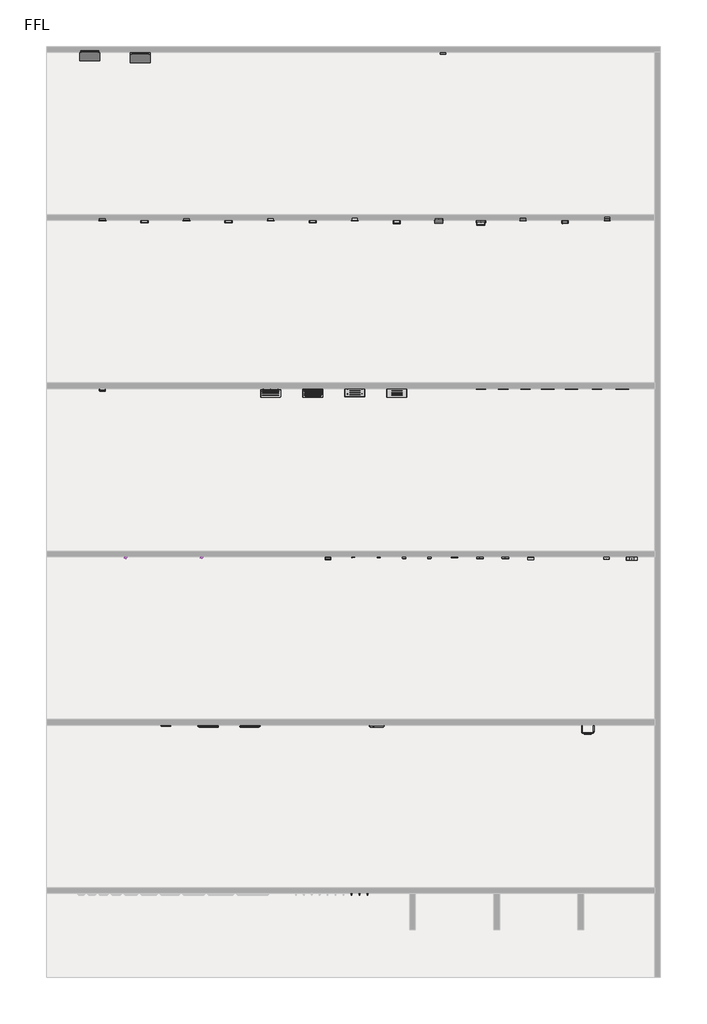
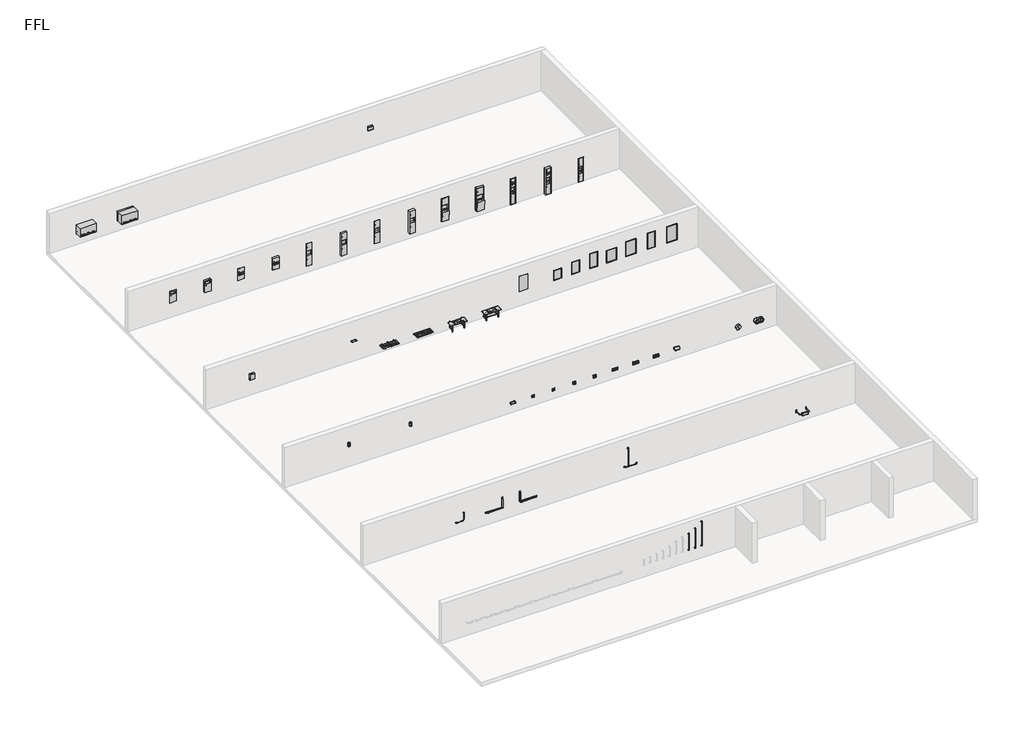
# One storey, part 2 of 2: 51 proxies.
"""IFC4 building model written with IfcOpenShell, lengths in millimetres."""

from ifc_helpers import new_model, si_unit, origin, place, context, project, spatial, transform, mapped, element, save
from components import specialty_equipment_1827895f, specialty_equipment_21699a56, specialty_equipment_f52764ad, specialty_equipment_bf805c09, specialty_equipment_d3429dd2, specialty_equipment_ddab9f5c, specialty_equipment_3da9acec, specialty_equipment_7ed3570a, specialty_equipment_6ff9c7a3, specialty_equipment_2e20168a, specialty_equipment_59e30456, specialty_equipment_1e4861f3, specialty_equipment_3c9b6b59, specialty_equipment_a7aae13d, specialty_equipment_918cf13b, specialty_equipment_59cae8f1, specialty_equipment_10595252, specialty_equipment_c671b277, specialty_equipment_21e379d4, specialty_equipment_318ee3eb, specialty_equipment_16520835, specialty_equipment_c906592a, specialty_equipment_685f5880, specialty_equipment_0715c5d2, specialty_equipment_5f01a150, specialty_equipment_4fdbc1d0, specialty_equipment_4b575479, specialty_equipment_e2bc4629, specialty_equipment_5771c5a9, specialty_equipment_d1b62675, specialty_equipment_b47102ea, specialty_equipment_d78e6f0b, specialty_equipment_3d88ecde, specialty_equipment_0947d158, specialty_equipment_cb105d27, specialty_equipment_6cb7c434, specialty_equipment_35d2bbda, specialty_equipment_26288f8f, specialty_equipment_62537d06, specialty_equipment_7c83437f, specialty_equipment_42fed3f8, specialty_equipment_caec7ef2, specialty_equipment_d1306df7, specialty_equipment_abbd40d7, specialty_equipment_a5e5e8b2, specialty_equipment_d6a71a56, specialty_equipment_37063abb, specialty_equipment_077ba308, specialty_equipment_52607908, specialty_equipment_17e7ff4d, specialty_equipment_2b32edbf, specialty_equipment_fa347529, specialty_equipment_646fb459, specialty_equipment_0e67bdee, specialty_equipment_90be7445

model = new_model("IFC4")

# Units and contexts
model_context = context("Model", 3, world=origin())
ifc_project = project(units=[si_unit("LENGTHUNIT", "METRE", prefix="MILLI")], contexts=[model_context])

# Site, building, storey
site = spatial("IfcSite", under=ifc_project)
building = spatial("IfcBuilding", under=site)
storey = spatial("IfcBuildingStorey", under=building, Name="FFL", Elevation=0.0)

# Proxies
placement = place(None, origin())
specialty_equipment_shape = specialty_equipment_1827895f(model_context)
specialty_equipment_2_shape = specialty_equipment_21699a56(model_context)
element("IfcBuildingElementProxy", 1, Name="Baby Change Station_Metlam_Horizontal_Recessed : 940w x 495d x 585h (ML_8200REC)", ObjectType="Baby Change Station_Metlam_Horizontal_Recessed : 940w x 495d x 585h (ML_8200REC)", at=placement, inside=storey, context=model_context, shape_type="MappedRepresentation", body=[
    mapped(specialty_equipment_shape, transform((-18209.7352929, 8948.2393304, 0.0), x_axis=(1.0, 0.0, 0.0), y_axis=(0.0, 1.0, 0.0), z_axis=(0.0, 0.0, 1.0))),
    mapped(specialty_equipment_2_shape, transform((-18209.7352929, 8948.2393304, 0.0), x_axis=(1.0, 0.0, 0.0), y_axis=(0.0, 1.0, 0.0), z_axis=(0.0, 0.0, 1.0))),
])
specialty_equipment_3_shape = specialty_equipment_f52764ad(model_context)
specialty_equipment_4_shape = specialty_equipment_bf805c09(model_context)
element("IfcBuildingElementProxy", 2, Name="Baby Change Station_Metlam_Horizontal_Surface Mounted_Stainless Steel : 941w x 499d x 588h (ML_8200SM)", ObjectType="Baby Change Station_Metlam_Horizontal_Surface Mounted_Stainless Steel : 941w x 499d x 588h (ML_8200SM)", at=placement, inside=storey, context=model_context, shape_type="MappedRepresentation", body=[
    mapped(specialty_equipment_3_shape, transform((-15809.7352929, 8948.2393304, 0.0), x_axis=(1.0, 0.0, 0.0), y_axis=(0.0, 1.0, 0.0), z_axis=(0.0, 0.0, 1.0))),
    mapped(specialty_equipment_4_shape, transform((-15809.7352929, 8948.2393304, 0.0), x_axis=(1.0, 0.0, 0.0), y_axis=(0.0, 1.0, 0.0), z_axis=(0.0, 0.0, 1.0))),
])
specialty_equipment_5_shape = specialty_equipment_d3429dd2(model_context)
element("IfcBuildingElementProxy", 3, Name="Hand Dryer_3 In 1_Metlam_Eclipse_Recessed : 318w x 190d x 1500h (ML_ECLIPSE_3N1REC_D)", ObjectType="Hand Dryer_3 In 1_Metlam_Eclipse_Recessed : 318w x 190d x 1500h (ML_ECLIPSE_3N1REC_D)", at=placement, inside=storey, context=model_context, shape_type="MappedRepresentation", body=[
    mapped(specialty_equipment_5_shape, transform((6390.2647071, 1130.2393304, 0.0), x_axis=(1.0, 0.0, 0.0), y_axis=(0.0, 1.0, 0.0), z_axis=(0.0, 0.0, 1.0))),
])
specialty_equipment_6_shape = specialty_equipment_ddab9f5c(model_context)
element("IfcBuildingElementProxy", 4, Name="Hand Dryer_3 In 1_Metlam_Eco_Recessed : 318w x 142d x 1625h (ML_ECO_73N1REC)", ObjectType="Hand Dryer_3 In 1_Metlam_Eco_Recessed : 318w x 142d x 1625h (ML_ECO_73N1REC)", at=placement, inside=storey, context=model_context, shape_type="MappedRepresentation", body=[
    mapped(specialty_equipment_6_shape, transform((2390.2647071, 1083.2393304, 0.0), x_axis=(1.0, 0.0, 0.0), y_axis=(0.0, 1.0, 0.0), z_axis=(0.0, 0.0, 1.0))),
])
specialty_equipment_7_shape = specialty_equipment_3da9acec(model_context)
element("IfcBuildingElementProxy", 5, Name="Hand Dryer_3 In 1_Metlam_Eco_Surface Mounted : 318w x 142d x 1625h (ML_ECO_73N1SM)", ObjectType="Hand Dryer_3 In 1_Metlam_Eco_Surface Mounted : 318w x 142d x 1625h (ML_ECO_73N1SM)", at=placement, inside=storey, context=model_context, shape_type="MappedRepresentation", body=[
    mapped(specialty_equipment_7_shape, transform((4390.2647071, 948.2393304, 0.0), x_axis=(1.0, 0.0, 0.0), y_axis=(0.0, 1.0, 0.0), z_axis=(0.0, 0.0, 1.0))),
])
specialty_equipment_8_shape = specialty_equipment_7ed3570a(model_context)
element("IfcBuildingElementProxy", 6, Name="Paper Dispenser and Waste_Metlam_Recessed_6.5L Waste : 365w x 112d x 720h (ML710_RECMK2)", ObjectType="Paper Dispenser and Waste_Metlam_Recessed_6.5L Waste : 365w x 112d x 720h (ML710_RECMK2)", at=placement, inside=storey, context=model_context, shape_type="MappedRepresentation", body=[
    mapped(specialty_equipment_8_shape, transform((-13609.7352929, 1045.2393304, 0.0), x_axis=(1.0, 0.0, 0.0), y_axis=(0.0, 1.0, 0.0), z_axis=(0.0, 0.0, 1.0))),
])
specialty_equipment_9_shape = specialty_equipment_6ff9c7a3(model_context)
element("IfcBuildingElementProxy", 7, Name="Paper Dispenser and Waste_Metlam_Recessed_19L Waste : 333w x 115d x 1397h (ML706RECMK2)", ObjectType="Paper Dispenser and Waste_Metlam_Recessed_19L Waste : 333w x 115d x 1397h (ML706RECMK2)", at=placement, inside=storey, context=model_context, shape_type="MappedRepresentation", body=[
    mapped(specialty_equipment_9_shape, transform((-9609.7352929, 1048.2393304, 0.0), x_axis=(1.0, 0.0, 0.0), y_axis=(0.0, 1.0, 0.0), z_axis=(0.0, 0.0, 1.0))),
])
specialty_equipment_10_shape = specialty_equipment_2e20168a(model_context)
element("IfcBuildingElementProxy", 8, Name="Paper Dispenser and Waste_Metlam_Recessed_22L Waste : 333w x 155d x 1397h (ML707REC_MK2)", ObjectType="Paper Dispenser and Waste_Metlam_Recessed_22L Waste : 333w x 155d x 1397h (ML707REC_MK2)", at=placement, inside=storey, context=model_context, shape_type="MappedRepresentation", body=[
    mapped(specialty_equipment_10_shape, transform((-5609.7352929, 1088.2393304, 0.0), x_axis=(1.0, 0.0, 0.0), y_axis=(0.0, 1.0, 0.0), z_axis=(0.0, 0.0, 1.0))),
])
specialty_equipment_11_shape = specialty_equipment_59e30456(model_context)
element("IfcBuildingElementProxy", 9, Name="Paper Dispenser and Waste_Metlam_Recessed_49L Waste : 438w x 237d x 1420h (ML705_RECMK2)", ObjectType="Paper Dispenser and Waste_Metlam_Recessed_49L Waste : 438w x 237d x 1420h (ML705_RECMK2)", at=placement, inside=storey, context=model_context, shape_type="MappedRepresentation", body=[
    mapped(specialty_equipment_11_shape, transform((-1609.7352929, 1055.2393304, 0.0), x_axis=(1.0, 0.0, 0.0), y_axis=(0.0, 1.0, 0.0), z_axis=(0.0, 0.0, 1.0))),
])
specialty_equipment_12_shape = specialty_equipment_1e4861f3(model_context)
element("IfcBuildingElementProxy", 10, Name="Paper Dispenser and Waste_Metlam_Surface Mounted_6.5L Waste : 365w x 115d x 720h (ML710_SMMK2)", ObjectType="Paper Dispenser and Waste_Metlam_Surface Mounted_6.5L Waste : 365w x 115d x 720h (ML710_SMMK2)", at=placement, inside=storey, context=model_context, shape_type="MappedRepresentation", body=[
    mapped(specialty_equipment_12_shape, transform((-11609.7352929, 948.2393304, 0.0), x_axis=(1.0, 0.0, 0.0), y_axis=(0.0, 1.0, 0.0), z_axis=(0.0, 0.0, 1.0))),
])
specialty_equipment_13_shape = specialty_equipment_3c9b6b59(model_context)
element("IfcBuildingElementProxy", 11, Name="Paper Dispenser and Waste_Metlam_Surface Mounted_19L Waste : 333w x 115d x 1397h (ML706SM_MK2)", ObjectType="Paper Dispenser and Waste_Metlam_Surface Mounted_19L Waste : 333w x 115d x 1397h (ML706SM_MK2)", at=placement, inside=storey, context=model_context, shape_type="MappedRepresentation", body=[
    mapped(specialty_equipment_13_shape, transform((-7609.7352929, 948.2393304, 0.0), x_axis=(1.0, 0.0, 0.0), y_axis=(0.0, 1.0, 0.0), z_axis=(0.0, 0.0, 1.0))),
])
specialty_equipment_14_shape = specialty_equipment_a7aae13d(model_context)
element("IfcBuildingElementProxy", 12, Name="Paper Dispenser and Waste_Metlam_Surface Mounted_22L Waste : 333w x 160d x 1397h (ML707SM_MK2)", ObjectType="Paper Dispenser and Waste_Metlam_Surface Mounted_22L Waste : 333w x 160d x 1397h (ML707SM_MK2)", at=placement, inside=storey, context=model_context, shape_type="MappedRepresentation", body=[
    mapped(specialty_equipment_14_shape, transform((-3609.7352929, 948.2393304, 0.0), x_axis=(1.0, 0.0, 0.0), y_axis=(0.0, 1.0, 0.0), z_axis=(0.0, 0.0, 1.0))),
])
specialty_equipment_15_shape = specialty_equipment_918cf13b(model_context)
element("IfcBuildingElementProxy", 13, Name="Paper Dispenser and Waste_Metlam_Surface Mounted_49L Waste : 438w x 237d x 1420h (ML705SM_MK2)", ObjectType="Paper Dispenser and Waste_Metlam_Surface Mounted_49L Waste : 438w x 237d x 1420h (ML705SM_MK2)", at=placement, inside=storey, context=model_context, shape_type="MappedRepresentation", body=[
    mapped(specialty_equipment_15_shape, transform((390.2647071, 948.2393304, 0.0), x_axis=(1.0, 0.0, 0.0), y_axis=(0.0, 1.0, 0.0), z_axis=(0.0, 0.0, 1.0))),
])
specialty_equipment_16_shape = specialty_equipment_59cae8f1(model_context)
element("IfcBuildingElementProxy", 14, Name="Backrest_Metlam_Straight Rail : 597w x 442d x 156h (MLR119MKII)", ObjectType="Backrest_Metlam_Straight Rail : 597w x 442d x 156h (MLR119MKII)", at=placement, inside=storey, context=model_context, shape_type="MappedRepresentation", body=[
    mapped(specialty_equipment_16_shape, transform((5532.2283614, -23051.7606696, 0.0), x_axis=(1.0, 0.0, 0.0), y_axis=(0.0, 1.0, 0.0), z_axis=(0.0, 0.0, 1.0))),
])
specialty_equipment_17_shape = specialty_equipment_10595252(model_context)
element("IfcBuildingElementProxy", 15, Name="Grab Rail_Metlam_90 Deg_Ambulant : 482w x 60d x 482h (MLR112)", ObjectType="Grab Rail_Metlam_90 Deg_Ambulant : 482w x 60d x 482h (MLR112)", at=placement, inside=storey, context=model_context, shape_type="MappedRepresentation", body=[
    mapped(specialty_equipment_17_shape, transform((-14858.8176069, -23051.7606696, 0.0), x_axis=(0.9999999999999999, 0.0, 0.0), y_axis=(0.0, 0.9999999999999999, 0.0), z_axis=(0.0, 0.0, 1.0))),
])
specialty_equipment_18_shape = specialty_equipment_c671b277(model_context)
element("IfcBuildingElementProxy", 16, Name="Grab Rail_Metlam_90 Deg_Anti Ligature_Left : 982w x 90d x 632d (MLR103_AL)", ObjectType="Grab Rail_Metlam_90 Deg_Anti Ligature_Left : 982w x 90d x 632d (MLR103_AL)", at=placement, inside=storey, context=model_context, shape_type="MappedRepresentation", body=[
    mapped(specialty_equipment_18_shape, transform((-12721.9852929, -23051.7606696, 0.0), x_axis=(1.0, 0.0, 0.0), y_axis=(0.0, 1.0, 0.0), z_axis=(0.0, 0.0, 1.0))),
])
specialty_equipment_19_shape = specialty_equipment_21e379d4(model_context)
element("IfcBuildingElementProxy", 17, Name="Grab Rail_Metlam_90 Deg_Anti Ligature_Right : 982w x 90d x 632d (MLR104_AL)", ObjectType="Grab Rail_Metlam_90 Deg_Anti Ligature_Right : 982w x 90d x 632d (MLR104_AL)", at=placement, inside=storey, context=model_context, shape_type="MappedRepresentation", body=[
    mapped(specialty_equipment_19_shape, transform((-9698.4852929, -23051.7606696, 0.0), x_axis=(1.0, 0.0, 0.0), y_axis=(0.0, 1.0, 0.0), z_axis=(0.0, 0.0, 1.0))),
])
specialty_equipment_20_shape = specialty_equipment_318ee3eb(model_context)
element("IfcBuildingElementProxy", 18, Name="Grab Rail_Metlam_Shower_Offset_Left : 732w x 90d x 1132h (MLR107MKII)", ObjectType="Grab Rail_Metlam_Shower_Offset_Left : 732w x 90d x 1132h (MLR107MKII)", at=placement, inside=storey, context=model_context, shape_type="MappedRepresentation", body=[
    mapped(specialty_equipment_20_shape, transform((-4170.7352929, -23051.7606696, 0.0), x_axis=(1.0, 0.0, 0.0), y_axis=(0.0, 1.0, 0.0), z_axis=(0.0, 0.0, 1.0))),
])
specialty_equipment_21_shape = specialty_equipment_16520835(model_context)
element("IfcBuildingElementProxy", 19, Name="Grab Rail_Metlam_Straight_Vertical : 1532long x 90d x 32w (ML336SS)", ObjectType="Grab Rail_Metlam_Straight_Vertical : 1532long x 90d x 32w (ML336SS)", at=placement, inside=storey, context=model_context, shape_type="MappedRepresentation", body=[
    mapped(specialty_equipment_21_shape, transform((-5007.1278918, -31051.7606696, 0.0), x_axis=(1.0, 0.0, 0.0), y_axis=(0.0, 1.0, 0.0), z_axis=(0.0, 0.0, 1.0))),
])
specialty_equipment_22_shape = specialty_equipment_c906592a(model_context)
element("IfcBuildingElementProxy", 20, Name="Grab Rail_Metlam_Straight_Vertical : 1232long x 90d x 32w (ML335SS)", ObjectType="Grab Rail_Metlam_Straight_Vertical : 1232long x 90d x 32w (ML335SS)", at=placement, inside=storey, context=model_context, shape_type="MappedRepresentation", body=[
    mapped(specialty_equipment_22_shape, transform((-5385.1278918, -31051.7606696, 0.0), x_axis=(1.0, 0.0, 0.0), y_axis=(0.0, 1.0, 0.0), z_axis=(0.0, 0.0, 1.0))),
])
specialty_equipment_23_shape = specialty_equipment_685f5880(model_context)
element("IfcBuildingElementProxy", 21, Name="Grab Rail_Metlam_Straight_Vertical : 1032long x 90d x 32w (ML334_1SS)", ObjectType="Grab Rail_Metlam_Straight_Vertical : 1032long x 90d x 32w (ML334_1SS)", at=placement, inside=storey, context=model_context, shape_type="MappedRepresentation", body=[
    mapped(specialty_equipment_23_shape, transform((-5763.1278918, -31051.7606696, 0.0), x_axis=(1.0, 0.0, 0.0), y_axis=(0.0, 1.0, 0.0), z_axis=(0.0, 0.0, 1.0))),
])
specialty_equipment_24_shape = specialty_equipment_0715c5d2(model_context)
element("IfcBuildingElementProxy", 22, Name="Hand Dryer_Metlam_Slimline : 268w x 100d x 283h (ML_100N_SS)", ObjectType="Hand Dryer_Metlam_Slimline : 268w x 100d x 283h (ML_100N_SS)", at=placement, inside=storey, context=model_context, shape_type="MappedRepresentation", body=[
    mapped(specialty_equipment_24_shape, transform((-1409.7352929, 8948.2393304, 0.0), x_axis=(1.0, 0.0, 0.0), y_axis=(0.0, 1.0, 0.0), z_axis=(0.0, 0.0, 1.0))),
])
specialty_equipment_25_shape = specialty_equipment_5f01a150(model_context)
element("IfcBuildingElementProxy", 23, Name="Mirror_Metlam_Polished : 500w x 8d x 950h (ML777)", ObjectType="Mirror_Metlam_Polished : 500w x 8d x 950h (ML777)", at=placement, inside=storey, context=model_context, shape_type="MappedRepresentation", body=[
    mapped(specialty_equipment_25_shape, transform((-1609.7352929, -7051.7606696, 0.0), x_axis=(1.0, 0.0, 0.0), y_axis=(0.0, 1.0, 0.0), z_axis=(0.0, 0.0, 1.0))),
])
specialty_equipment_26_shape = specialty_equipment_4fdbc1d0(model_context)
element("IfcBuildingElementProxy", 24, Name="Paper Dispenser_Metlam_Vertical_Rounded : 280w x 125d x 348h (ML725L_AR)", ObjectType="Paper Dispenser_Metlam_Vertical_Rounded : 280w x 125d x 348h (ML725L_AR)", at=placement, inside=storey, context=model_context, shape_type="MappedRepresentation", body=[
    mapped(specialty_equipment_26_shape, transform((-17609.7352929, -7051.7606696, 0.0), x_axis=(1.0, 0.0, 0.0), y_axis=(0.0, 1.0, 0.0), z_axis=(0.0, 0.0, 1.0))),
])
specialty_equipment_27_shape = specialty_equipment_4b575479(model_context)
element("IfcBuildingElementProxy", 25, Name="Shower Seat_Metlam_Folding : 960w x 400d x 205h (ML991_CL)", ObjectType="Shower Seat_Metlam_Folding : 960w x 400d x 205h (ML991_CL)", at=placement, inside=storey, context=model_context, shape_type="MappedRepresentation", body=[
    mapped(specialty_equipment_27_shape, transform((-9414.9070403, -6830.8611653, 0.0), x_axis=(1.0, 0.0, 0.0), y_axis=(0.0, 1.0, 0.0), z_axis=(0.0, 0.0, 1.0))),
])
specialty_equipment_28_shape = specialty_equipment_e2bc4629(model_context)
element("IfcBuildingElementProxy", 26, Name="Shower Seat_Metlam_Folding_Guide Bracket : 960w x 400d x 295h (ML994)", ObjectType="Shower Seat_Metlam_Folding_Guide Bracket : 960w x 400d x 295h (ML994)", at=placement, inside=storey, context=model_context, shape_type="MappedRepresentation", body=[
    mapped(specialty_equipment_28_shape, transform((-7414.9070403, -6830.8611653, 0.0), x_axis=(1.0, 0.0, 0.0), y_axis=(0.0, 1.0, 0.0), z_axis=(0.0, 0.0, 1.0))),
])
specialty_equipment_29_shape = specialty_equipment_5771c5a9(model_context)
specialty_equipment_30_shape = specialty_equipment_d1b62675(model_context)
element("IfcBuildingElementProxy", 27, Name="Shower Seat_Metlam_Folding_Support Legs and Handle : 960w x 400d x 480h (ML995_PH)", ObjectType="Shower Seat_Metlam_Folding_Support Legs and Handle : 960w x 400d x 480h (ML995_PH)", at=placement, inside=storey, context=model_context, shape_type="MappedRepresentation", body=[
    mapped(specialty_equipment_29_shape, transform((-3414.9070403, -6830.8611653, 0.0), x_axis=(1.0, 0.0, 0.0), y_axis=(0.0, 1.0, 0.0), z_axis=(0.0, 0.0, 1.0))),
    mapped(specialty_equipment_30_shape, transform((-3414.9070403, -6830.8611653, 0.0), x_axis=(1.0, 0.0, 0.0), y_axis=(0.0, 1.0, 0.0), z_axis=(0.0, 0.0, 1.0))),
])
specialty_equipment_31_shape = specialty_equipment_b47102ea(model_context)
specialty_equipment_32_shape = specialty_equipment_d78e6f0b(model_context)
element("IfcBuildingElementProxy", 28, Name="Shower Seat_Metlam_Folding_Support Legs : 960w x 395d x 498h (ML995_CL)", ObjectType="Shower Seat_Metlam_Folding_Support Legs : 960w x 395d x 498h (ML995_CL)", at=placement, inside=storey, context=model_context, shape_type="MappedRepresentation", body=[
    mapped(specialty_equipment_31_shape, transform((-5414.9070403, -6830.8611653, 0.0), x_axis=(1.0, 0.0, 0.0), y_axis=(0.0, 1.0, 0.0), z_axis=(0.0, 0.0, 1.0))),
    mapped(specialty_equipment_32_shape, transform((-5414.9070403, -6830.8611653, 0.0), x_axis=(1.0, 0.0, 0.0), y_axis=(0.0, 1.0, 0.0), z_axis=(0.0, 0.0, 1.0))),
])
specialty_equipment_33_shape = specialty_equipment_3d88ecde(model_context)
element("IfcBuildingElementProxy", 29, Name="Shelf_Metlam_Utility : 300w x 127d x 105h (ML950_12)", ObjectType="Shelf_Metlam_Utility : 300w x 127d x 105h (ML950_12)", at=placement, inside=storey, context=model_context, shape_type="MappedRepresentation", body=[
    mapped(specialty_equipment_33_shape, transform((-11609.7352929, -7051.7606696, 0.0), x_axis=(1.0, 0.0, 0.0), y_axis=(0.0, 1.0, 0.0), z_axis=(0.0, 0.0, 1.0))),
])
specialty_equipment_34_shape = specialty_equipment_0947d158(model_context)
element("IfcBuildingElementProxy", 30, Name="Toilet Roll Dispenser_Metlam_Double_Bar_Hooded : 265w x 91d x 100h (ML267)", ObjectType="Toilet Roll Dispenser_Metlam_Double_Bar_Hooded : 265w x 91d x 100h (ML267)", at=placement, inside=storey, context=model_context, shape_type="MappedRepresentation", body=[
    mapped(specialty_equipment_34_shape, transform((-6874.7352929, -15051.7606696, 0.0), x_axis=(1.0, 0.0, 0.0), y_axis=(0.0, 1.0, 0.0), z_axis=(0.0, 0.0, 1.0))),
])
specialty_equipment_35_shape = specialty_equipment_cb105d27(model_context)
element("IfcBuildingElementProxy", 31, Name="Toilet Roll Dispenser_Metlam_Double_Cabinet_Arc : 280w x 135d x 135h (ML835_TRH)", ObjectType="Toilet Roll Dispenser_Metlam_Double_Cabinet_Arc : 280w x 135d x 135h (ML835_TRH)", at=placement, inside=storey, context=model_context, shape_type="MappedRepresentation", body=[
    mapped(specialty_equipment_35_shape, transform((2753.2647071, -15051.7606696, 0.0), x_axis=(1.0, 0.0, 0.0), y_axis=(0.0, 1.0, 0.0), z_axis=(0.0, 0.0, 1.0))),
])
specialty_equipment_36_shape = specialty_equipment_6cb7c434(model_context)
element("IfcBuildingElementProxy", 32, Name="Toilet Roll Dispenser_Metlam_Double_Cabinet_Rounded : 520w x 150d x 280h (ML841DBL)", ObjectType="Toilet Roll Dispenser_Metlam_Double_Cabinet_Rounded : 520w x 150d x 280h (ML841DBL)", at=placement, inside=storey, context=model_context, shape_type="MappedRepresentation", body=[
    mapped(specialty_equipment_36_shape, transform((7567.2647071, -15051.7606696, 0.0), x_axis=(1.0, 0.0, 0.0), y_axis=(0.0, 1.0, 0.0), z_axis=(0.0, 0.0, 1.0))),
])
specialty_equipment_37_shape = specialty_equipment_35d2bbda(model_context)
element("IfcBuildingElementProxy", 33, Name="Toilet Roll Dispenser_Metlam_Double_Recessed_Hooded : 322w x 84d x 161h (ML263B)", ObjectType="Toilet Roll Dispenser_Metlam_Double_Recessed_Hooded : 322w x 84d x 161h (ML263B)", at=placement, inside=storey, context=model_context, shape_type="MappedRepresentation", body=[
    mapped(specialty_equipment_37_shape, transform((-857.2352929, -15004.7606696, 0.0), x_axis=(1.0, 0.0, 0.0), y_axis=(0.0, 1.0, 0.0), z_axis=(0.0, 0.0, 1.0))),
])
specialty_equipment_38_shape = specialty_equipment_26288f8f(model_context)
element("IfcBuildingElementProxy", 34, Name="Toilet Roll Dispenser_Metlam_Double_Surface Mounted : 322w x 83d x 161h (ML262SM_S)", ObjectType="Toilet Roll Dispenser_Metlam_Double_Surface Mounted : 322w x 83d x 161h (ML262SM_S)", at=placement, inside=storey, context=model_context, shape_type="MappedRepresentation", body=[
    mapped(specialty_equipment_38_shape, transform((346.2647071, -15051.7606696, 0.0), x_axis=(1.0, 0.0, 0.0), y_axis=(0.0, 1.0, 0.0), z_axis=(0.0, 0.0, 1.0))),
])
specialty_equipment_39_shape = specialty_equipment_62537d06(model_context)
element("IfcBuildingElementProxy", 35, Name="Toilet Roll Dispenser_Metlam_Double_Surface Mounted_Hooded : 322w x 91d x 161h (ML263SM_S)", ObjectType="Toilet Roll Dispenser_Metlam_Double_Surface Mounted_Hooded : 322w x 91d x 161h (ML263SM_S)", at=placement, inside=storey, context=model_context, shape_type="MappedRepresentation", body=[
    mapped(specialty_equipment_39_shape, transform((1549.7647071, -15051.7606696, 0.0), x_axis=(1.0, 0.0, 0.0), y_axis=(0.0, 1.0, 0.0), z_axis=(0.0, 0.0, 1.0))),
])
specialty_equipment_40_shape = specialty_equipment_7c83437f(model_context)
element("IfcBuildingElementProxy", 36, Name="Toilet Roll Dispenser_Metlam_Single_Cabinet_Rounded : 273w x 120d x 273h (ML841)", ObjectType="Toilet Roll Dispenser_Metlam_Single_Cabinet_Rounded : 273w x 120d x 273h (ML841)", at=placement, inside=storey, context=model_context, shape_type="MappedRepresentation", body=[
    mapped(specialty_equipment_40_shape, transform((6363.7647071, -15051.7606696, 0.0), x_axis=(1.0, 0.0, 0.0), y_axis=(0.0, 1.0, 0.0), z_axis=(0.0, 0.0, 1.0))),
])
specialty_equipment_41_shape = specialty_equipment_42fed3f8(model_context)
element("IfcBuildingElementProxy", 37, Name="Toilet Roll Dispenser_Metlam_Single_Recessed : 161w x 76d x 161h (ML260S)", ObjectType="Toilet Roll Dispenser_Metlam_Single_Recessed : 161w x 76d x 161h (ML260S)", at=placement, inside=storey, context=model_context, shape_type="MappedRepresentation", body=[
    mapped(specialty_equipment_41_shape, transform((-5671.2352929, -15004.7606696, 0.0), x_axis=(1.0, 0.0, 0.0), y_axis=(0.0, 1.0, 0.0), z_axis=(0.0, 0.0, 1.0))),
])
specialty_equipment_42_shape = specialty_equipment_caec7ef2(model_context)
element("IfcBuildingElementProxy", 38, Name="Toilet Roll Dispenser_Metlam_Single_Recessed_Hooded : 161w x 84d x 161h (ML261-S)", ObjectType="Toilet Roll Dispenser_Metlam_Single_Recessed_Hooded : 161w x 84d x 161h (ML261-S)", at=placement, inside=storey, context=model_context, shape_type="MappedRepresentation", body=[
    mapped(specialty_equipment_42_shape, transform((-4467.7352929, -15004.7606696, 0.0), x_axis=(1.0, 0.0, 0.0), y_axis=(0.0, 1.0, 0.0), z_axis=(0.0, 0.0, 1.0))),
])
specialty_equipment_43_shape = specialty_equipment_d1306df7(model_context)
element("IfcBuildingElementProxy", 39, Name="Toilet Roll Dispenser_Metlam_Single_Surface Mounted : 161w x 83d x 161h (ML260SM_S)", ObjectType="Toilet Roll Dispenser_Metlam_Single_Surface Mounted : 161w x 83d x 161h (ML260SM_S)", at=placement, inside=storey, context=model_context, shape_type="MappedRepresentation", body=[
    mapped(specialty_equipment_43_shape, transform((-3264.2352929, -15051.7606696, 0.0), x_axis=(1.0, 0.0, 0.0), y_axis=(0.0, 1.0, 0.0), z_axis=(0.0, 0.0, 1.0))),
])
specialty_equipment_44_shape = specialty_equipment_abbd40d7(model_context)
element("IfcBuildingElementProxy", 40, Name="Toilet Roll Dispenser_Metlam_Single_Surface Mounted_Hooded : 161w x 88d x 161h (ML261SM_S)", ObjectType="Toilet Roll Dispenser_Metlam_Single_Surface Mounted_Hooded : 161w x 88d x 161h (ML261SM_S)", at=placement, inside=storey, context=model_context, shape_type="MappedRepresentation", body=[
    mapped(specialty_equipment_44_shape, transform((-2060.7352929, -15051.7606696, 0.0), x_axis=(1.0, 0.0, 0.0), y_axis=(0.0, 1.0, 0.0), z_axis=(0.0, 0.0, 1.0))),
])
specialty_equipment_45_shape = specialty_equipment_a5e5e8b2(model_context)
element("IfcBuildingElementProxy", 41, Name="Waste_Metlam_Recessed_9L : 365w x 115d x 720h (ML710R_MKII)", ObjectType="Waste_Metlam_Recessed_9L : 365w x 115d x 720h (ML710R_MKII)", at=placement, inside=storey, context=model_context, shape_type="MappedRepresentation", body=[
    mapped(specialty_equipment_45_shape, transform((-17609.7352929, 1048.2393304, 0.0), x_axis=(1.0, 0.0, 0.0), y_axis=(0.0, 1.0, 0.0), z_axis=(0.0, 0.0, 1.0))),
])
specialty_equipment_46_shape = specialty_equipment_d6a71a56(model_context)
element("IfcBuildingElementProxy", 42, Name="Waste_Metlam_Surface Mounted_9L : 365w x 115d x 720h (ML710R_SM_MK2)", ObjectType="Waste_Metlam_Surface Mounted_9L : 365w x 115d x 720h (ML710R_SM_MK2)", at=placement, inside=storey, context=model_context, shape_type="MappedRepresentation", body=[
    mapped(specialty_equipment_46_shape, transform((-15609.7352929, 948.2393304, 0.0), x_axis=(1.0, 0.0, 0.0), y_axis=(0.0, 1.0, 0.0), z_axis=(0.0, 0.0, 1.0))),
])
specialty_equipment_47_shape = specialty_equipment_37063abb(model_context)
element("IfcBuildingElementProxy", 43, Name="Soap Dispenser_Metlam_Rectangular_Vertical_Button Pump : 123w x 93d x 209h (ML605BS)", ObjectType="Soap Dispenser_Metlam_Rectangular_Vertical_Button Pump : 123w x 93d x 209h (ML605BS)", at=placement, inside=storey, context=model_context, shape_type="MappedRepresentation", body=[
    mapped(specialty_equipment_47_shape, transform((-16502.7352929, -15051.7606696, 0.0), x_axis=(1.0, 0.0, 0.0), y_axis=(0.0, 1.0, 0.0), z_axis=(0.0, 0.0, 1.0))),
])
specialty_equipment_48_shape = specialty_equipment_077ba308(model_context)
element("IfcBuildingElementProxy", 44, Name="Soap Dispenser_Metlam_Rectangular_Vertical_Pump : 123w x 123d x 209h (ML605AS_N)", ObjectType="Soap Dispenser_Metlam_Rectangular_Vertical_Pump : 123w x 123d x 209h (ML605AS_N)", at=placement, inside=storey, context=model_context, shape_type="MappedRepresentation", body=[
    mapped(specialty_equipment_48_shape, transform((-12892.2352929, -15051.7606696, 0.0), x_axis=(1.0, 0.0, 0.0), y_axis=(0.0, 1.0, 0.0), z_axis=(0.0, 0.0, 1.0))),
])
specialty_equipment_49_shape = specialty_equipment_52607908(model_context)
element("IfcBuildingElementProxy", 45, Name="Mirror_Metlam_Framed : 460w x 25d x 610h (ML771)", ObjectType="Mirror_Metlam_Framed : 460w x 25d x 610h (ML771)", at=placement, inside=storey, context=model_context, shape_type="MappedRepresentation", body=[
    mapped(specialty_equipment_49_shape, transform((390.2647071, -7051.7606696, 0.0), x_axis=(1.0, 0.0, 0.0), y_axis=(0.0, 1.0, 0.0), z_axis=(0.0, 0.0, 1.0))),
])
specialty_equipment_50_shape = specialty_equipment_17e7ff4d(model_context)
element("IfcBuildingElementProxy", 46, Name="Mirror_Metlam_Framed : 460w x 25d x 760h (ML771_1)", ObjectType="Mirror_Metlam_Framed : 460w x 25d x 760h (ML771_1)", at=placement, inside=storey, context=model_context, shape_type="MappedRepresentation", body=[
    mapped(specialty_equipment_50_shape, transform((1450.2647071, -7051.7606696, 0.0), x_axis=(1.0, 0.0, 0.0), y_axis=(0.0, 1.0, 0.0), z_axis=(0.0, 0.0, 1.0))),
])
specialty_equipment_51_shape = specialty_equipment_2b32edbf(model_context)
element("IfcBuildingElementProxy", 47, Name="Mirror_Metlam_Framed : 460w x 25d x 910h (ML771_2)", ObjectType="Mirror_Metlam_Framed : 460w x 25d x 910h (ML771_2)", at=placement, inside=storey, context=model_context, shape_type="MappedRepresentation", body=[
    mapped(specialty_equipment_51_shape, transform((2510.2647071, -7051.7606696, 0.0), x_axis=(1.0, 0.0, 0.0), y_axis=(0.0, 1.0, 0.0), z_axis=(0.0, 0.0, 1.0))),
])
specialty_equipment_52_shape = specialty_equipment_fa347529(model_context)
element("IfcBuildingElementProxy", 48, Name="Mirror_Metlam_Framed : 610w x 25d x 760h (ML771_3)", ObjectType="Mirror_Metlam_Framed : 610w x 25d x 760h (ML771_3)", at=placement, inside=storey, context=model_context, shape_type="MappedRepresentation", body=[
    mapped(specialty_equipment_52_shape, transform((3565.2647071, -7051.7606696, 0.0), x_axis=(1.0, 0.0, 0.0), y_axis=(0.0, 1.0, 0.0), z_axis=(0.0, 0.0, 1.0))),
])
specialty_equipment_53_shape = specialty_equipment_646fb459(model_context)
element("IfcBuildingElementProxy", 49, Name="Mirror_Metlam_Framed : 610w x 25d x 910h (ML771_4)", ObjectType="Mirror_Metlam_Framed : 610w x 25d x 910h (ML771_4)", at=placement, inside=storey, context=model_context, shape_type="MappedRepresentation", body=[
    mapped(specialty_equipment_53_shape, transform((4695.2647071, -7051.7606696, 0.0), x_axis=(1.0, 0.0, 0.0), y_axis=(0.0, 1.0, 0.0), z_axis=(0.0, 0.0, 1.0))),
])
specialty_equipment_54_shape = specialty_equipment_0e67bdee(model_context)
element("IfcBuildingElementProxy", 50, Name="Mirror_Metlam_Framed : 450w x 25d x 1000h (ML771_5)", ObjectType="Mirror_Metlam_Framed : 450w x 25d x 1000h (ML771_5)", at=placement, inside=storey, context=model_context, shape_type="MappedRepresentation", body=[
    mapped(specialty_equipment_54_shape, transform((5905.2647071, -7051.7606696, 0.0), x_axis=(1.0, 0.0, 0.0), y_axis=(0.0, 1.0, 0.0), z_axis=(0.0, 0.0, 1.0))),
])
specialty_equipment_55_shape = specialty_equipment_90be7445(model_context)
element("IfcBuildingElementProxy", 51, Name="Mirror_Metlam_Framed : 600w x 25d x 1000h (ML771_6)", ObjectType="Mirror_Metlam_Framed : 600w x 25d x 1000h (ML771_6)", at=placement, inside=storey, context=model_context, shape_type="MappedRepresentation", body=[
    mapped(specialty_equipment_55_shape, transform((7110.2647071, -7051.7606696, 0.0), x_axis=(1.0, 0.0, 0.0), y_axis=(0.0, 1.0, 0.0), z_axis=(0.0, 0.0, 1.0))),
])

save(model, "model.ifc")
